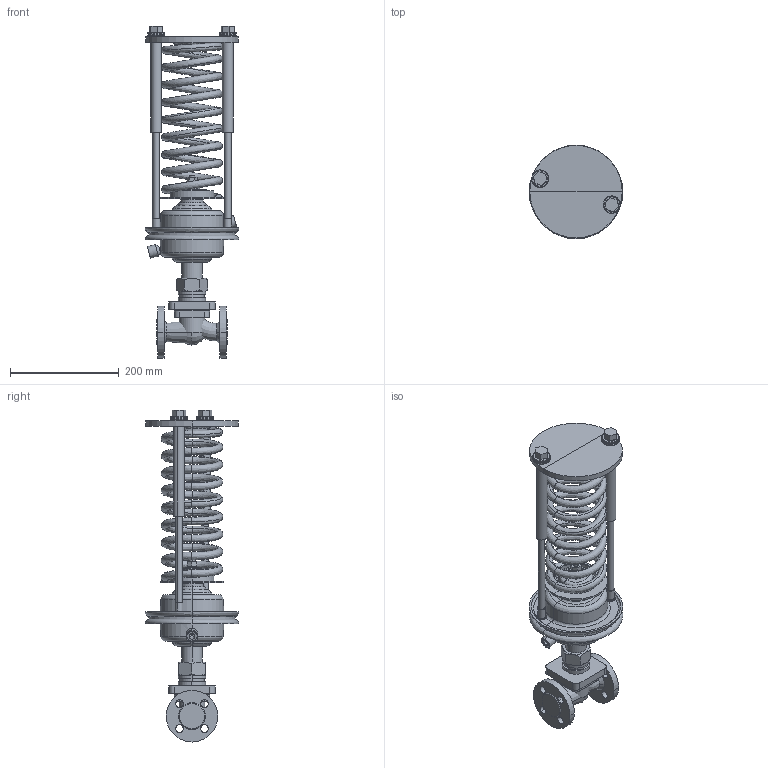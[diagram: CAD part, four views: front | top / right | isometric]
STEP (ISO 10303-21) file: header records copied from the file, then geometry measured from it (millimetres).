
FILE_DESCRIPTION(/* description */ (''),/* implementation_level */ '2;1');
FILE_NAME(/* name */ 'ETM_Регулятор давления_УРРД_НЗ_РД_DN15 0.05—0.3 МПа',/* time_stamp */ '2026-04-24T18:28:15+03:00',/* author */ (''),/* organization */ (''),/* preprocessor_version */ 'ST-DEVELOPER v20',/* originating_system */ '',/* authorisation */ '');
FILE_SCHEMA (('AP242_MANAGED_MODEL_BASED_3D_ENGINEERING_MIM_LF { 1 0 10303 442 1 1 4 }'));
Length unit declared in the file: millimetre
Products named in the file (13): TopLevelAssembly; Выдавливание; Переход; Выдавливание_
1; Переход_1; Переход_2; Переход_3; Выдавливание_
2; Объемная геометрия 
присоединена; Выдавливание_
3; Объемная геометрия 
присоединена_1; Выдавливание_
4; Пружина красная
Assembly tree (12 placements, depth 2):
  TopLevelAssembly
    Выдавливание
    Переход
    Выдавливание_
1
    Переход_1
    Переход_2
    Переход_3
    Выдавливание_
2
    Объемная геометрия 
присоединена
    Выдавливание_
3
    Объемная геометрия 
присоединена_1
    Выдавливание_
4
    Пружина красная
Bounding box: 171.97 x 171.97 x 610.45 mm (x, y, z)
Volume: 2601432 mm3; surface area: 524747.1 mm2
Topology: 31 solids, 31 shells, 518 faces, 1041 edges, 565 vertices
Faces by surface type: plane 189, bspline 177, cylinder 142, cone 10
Entity records: 16518 total; most frequent: CARTESIAN_POINT 5341, DIRECTION 2349, ORIENTED_EDGE 2078, EDGE_CURVE 1039, AXIS2_PLACEMENT_3D 978, CIRCLE 611, VERTEX_POINT 565, EDGE_LOOP 540
